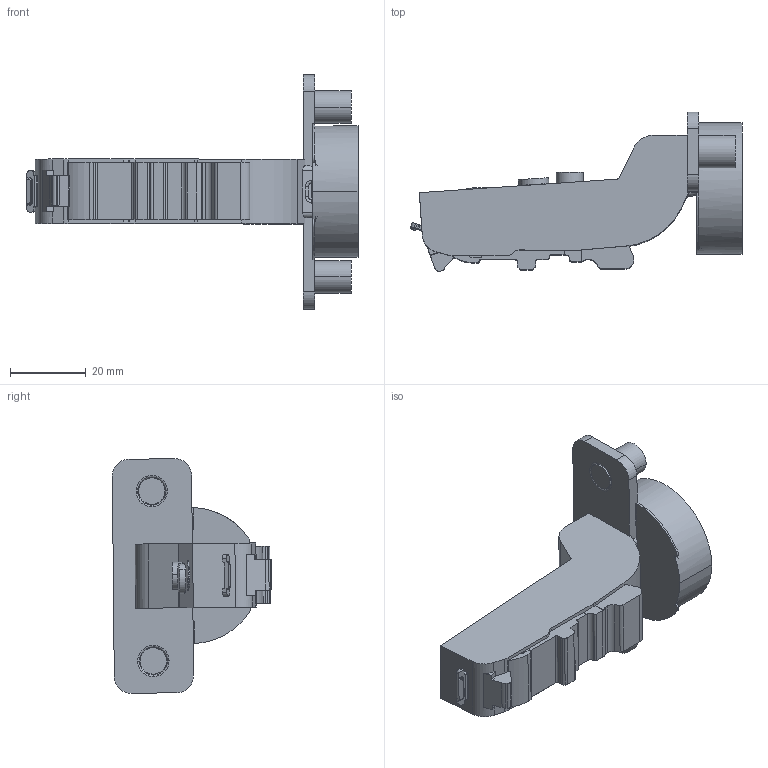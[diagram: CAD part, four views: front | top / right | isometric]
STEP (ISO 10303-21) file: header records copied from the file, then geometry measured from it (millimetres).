
FILE_DESCRIPTION (( 'STEP AP203' ), '1' );
FILE_NAME ('C81C875NFAB DTC 3D CLOSE.STEP', '2024-07-24T08:08:12', ( '微软用户' ), ( '微软中国' ), 'SwSTEP 2.0', 'SolidWorks 2021', '' );
FILE_SCHEMA (( 'CONFIG_CONTROL_DESIGN' ));
Length unit declared in the file: millimetre
Products named in the file (1): C81C875NFAB DTC 3D CLOSE
Bounding box: 87.94 x 42.19 x 62.11 mm (x, y, z)
Volume: 41526.4 mm3; surface area: 11957 mm2
Topology: 1 solids, 2 shells, 248 faces, 690 edges, 456 vertices
Faces by surface type: cylinder 109, plane 104, torus 20, bspline 11, cone 4
Entity records: 8353 total; most frequent: CARTESIAN_POINT 1864, ORIENTED_EDGE 1380, DIRECTION 1347, EDGE_CURVE 690, AXIS2_PLACEMENT_3D 491, VERTEX_POINT 456, VECTOR 365, LINE 365
